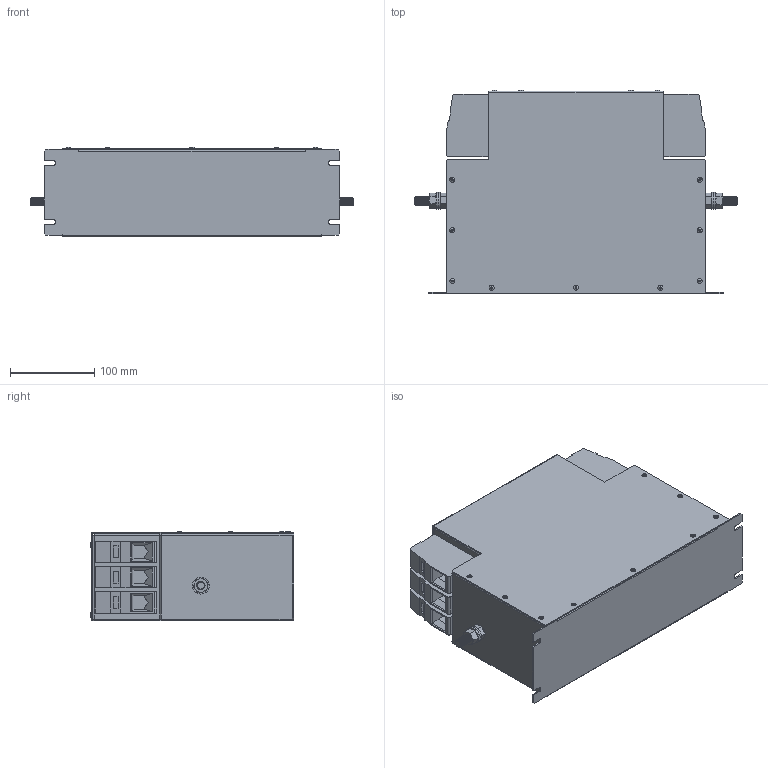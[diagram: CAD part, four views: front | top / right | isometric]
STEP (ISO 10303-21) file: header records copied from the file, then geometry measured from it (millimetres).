
FILE_DESCRIPTION (( 'STEP AP203' ), '1' );
FILE_NAME ('NF-CF-230(V size).STEP', '2025-02-26T17:34:33', ( '' ), ( '' ), 'SwSTEP 2.0', 'SolidWorks 2017', '' );
FILE_SCHEMA (( 'CONFIG_CONTROL_DESIGN' ));
Length unit declared in the file: millimetre
Products named in the file (9): M10x30 Earth post; hex nut style 1_am_B18.2.4.1M - Hex nut, Style 1,  M10 x 1.5, with 16mm WAF --D-N; flat washer narrow_am_B18.22M - Plain washer, 10 mm, narrow; HDFK-95 (no flanges); hex screw_am_B18.6.7M - M10 x 1.5 x 30 Indented HHMS --30S; 3.5mm Rivet; NF-CF-230(V lid); NF-CF-230(V case); NF-CF-230(V size)
Assembly tree (27 placements, depth 3):
  NF-CF-230(V size)
    NF-CF-230(V case)
    NF-CF-230(V lid)
    3.5mm Rivet  x13
    HDFK-95 (no flanges)  x6
    M10x30 Earth post  x2
      flat washer narrow_am_B18.22M - Plain washer, 10 mm, narrow
      hex nut style 1_am_B18.2.4.1M - Hex nut, Style 1,  M10 x 1.5, with 16mm WAF --D-N
      hex screw_am_B18.6.7M - M10 x 1.5 x 30 Indented HHMS --30S
Bounding box: 382 x 241 x 106 mm (x, y, z)
Volume: 867395.8 mm3; surface area: 645690.5 mm2
Topology: 29 solids, 29 shells, 1211 faces, 2930 edges, 1836 vertices
Faces by surface type: plane 663, cylinder 292, cone 226, torus 26, bspline 4
Entity records: 17450 total; most frequent: CARTESIAN_POINT 3085, DIRECTION 2789, ORIENTED_EDGE 2614, EDGE_CURVE 1307, AXIS2_PLACEMENT_3D 972, LINE 845, VECTOR 845, VERTEX_POINT 804
